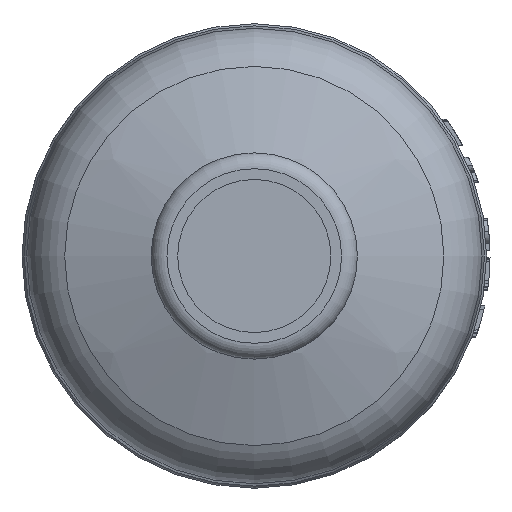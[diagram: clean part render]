
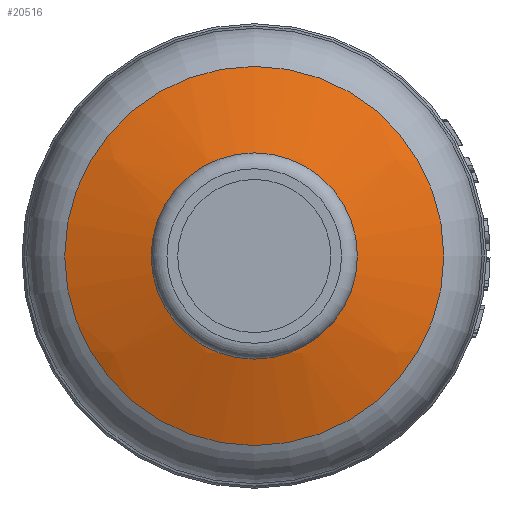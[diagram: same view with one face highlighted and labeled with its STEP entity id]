
A CAD part, front view. The second image highlights one B-rep face of the part: STEP entity #20516.
In plain terms, the highlighted spherical face has radius 60 mm.
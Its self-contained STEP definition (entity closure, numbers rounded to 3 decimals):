
#20=SPHERICAL_SURFACE('',#22119,60.);
#5229=FACE_BOUND('',#7599,.T.);
#6359=FACE_OUTER_BOUND('',#7598,.T.);
#7598=EDGE_LOOP('',(#19378));
#7599=EDGE_LOOP('',(#19379));
#8095=CIRCLE('',#22105,12.921);
#8101=CIRCLE('',#22118,23.885);
#10151=VERTEX_POINT('',#43638);
#10157=VERTEX_POINT('',#43657);
#13225=EDGE_CURVE('',#10151,#10151,#8095,.T.);
#13231=EDGE_CURVE('',#10157,#10157,#8101,.T.);
#19378=ORIENTED_EDGE('',*,*,#13231,.T.);
#19379=ORIENTED_EDGE('',*,*,#13225,.T.);
#20516=ADVANCED_FACE('',(#6359,#5229),#20,.T.);
#22105=AXIS2_PLACEMENT_3D('',#43639,#26702,#26703);
#22118=AXIS2_PLACEMENT_3D('',#43658,#26728,#26729);
#22119=AXIS2_PLACEMENT_3D('',#43659,#26730,#26731);
#26702=DIRECTION('center_axis',(0.,1.,0.));
#26703=DIRECTION('ref_axis',(0.,0.,1.));
#26728=DIRECTION('center_axis',(0.,-1.,0.));
#26729=DIRECTION('ref_axis',(1.,0.,0.));
#26730=DIRECTION('center_axis',(0.,0.,
1.));
#26731=DIRECTION('ref_axis',(-1.,0.,0.));
#43638=CARTESIAN_POINT('',(-12.921,-70.092,0.));
#43639=CARTESIAN_POINT('Origin',(0.,-70.092,0.));
#43657=CARTESIAN_POINT('',(23.885,-66.541,0.));
#43658=CARTESIAN_POINT('Origin',(0.,-66.541,
0.));
#43659=CARTESIAN_POINT('Origin',(0.,-11.5,0.));
